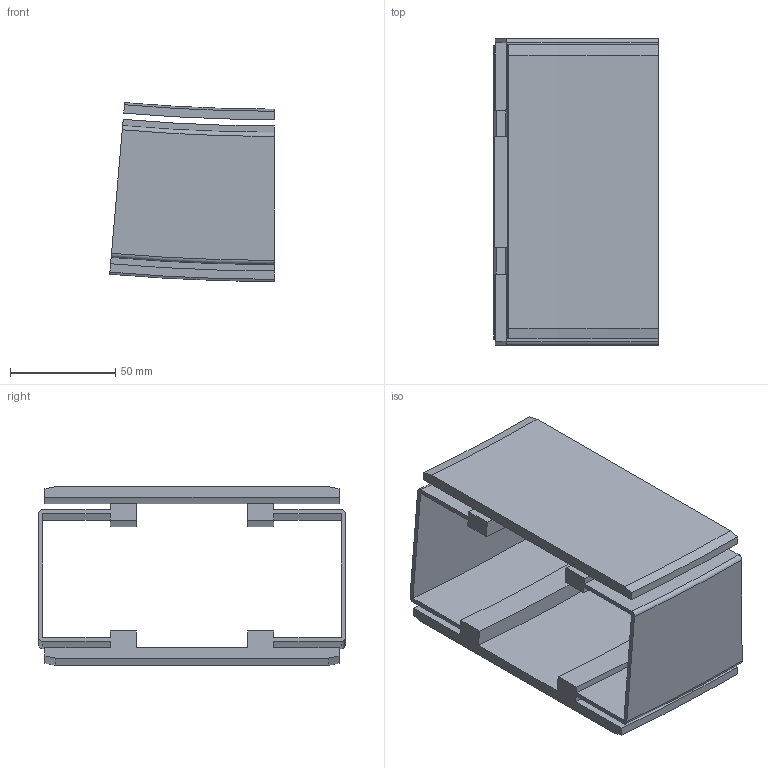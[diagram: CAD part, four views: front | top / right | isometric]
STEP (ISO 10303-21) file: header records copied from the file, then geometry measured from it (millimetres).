
FILE_DESCRIPTION(/* description */ ('VERTIKALKURVA S540 R860'),/* implementation_level */ '2;1');
FILE_NAME(/* name */ '540-5695+140-2000-NER-01.stp',/* time_stamp */ '2022-09-21T11:20:57+02:00',/* author */ ('Mathias.Dore'),/* organization */ ('CARRYLINE'),/* preprocessor_version */ 'ST-DEVELOPER v19.2',/* originating_system */ 'Autodesk Inventor 2023',/* authorisation */ '');
FILE_SCHEMA (('AUTOMOTIVE_DESIGN { 1 0 10303 214 3 1 1 }'));
Length unit declared in the file: millimetre
Products named in the file (1): 540-5695+140-2000-NER-01
Bounding box: 78.4 x 146 x 85.11 mm (x, y, z)
Volume: 172020.1 mm3; surface area: 93452.2 mm2
Topology: 2 solids, 2 shells, 87 faces, 234 edges, 156 vertices
Faces by surface type: plane 40, cylinder 25, bspline 14, cone 4, torus 4
Entity records: 7369 total; most frequent: CARTESIAN_POINT 5170, ORIENTED_EDGE 468, DIRECTION 408, EDGE_CURVE 234, VERTEX_POINT 156, AXIS2_PLACEMENT_3D 141, LINE 126, VECTOR 126
